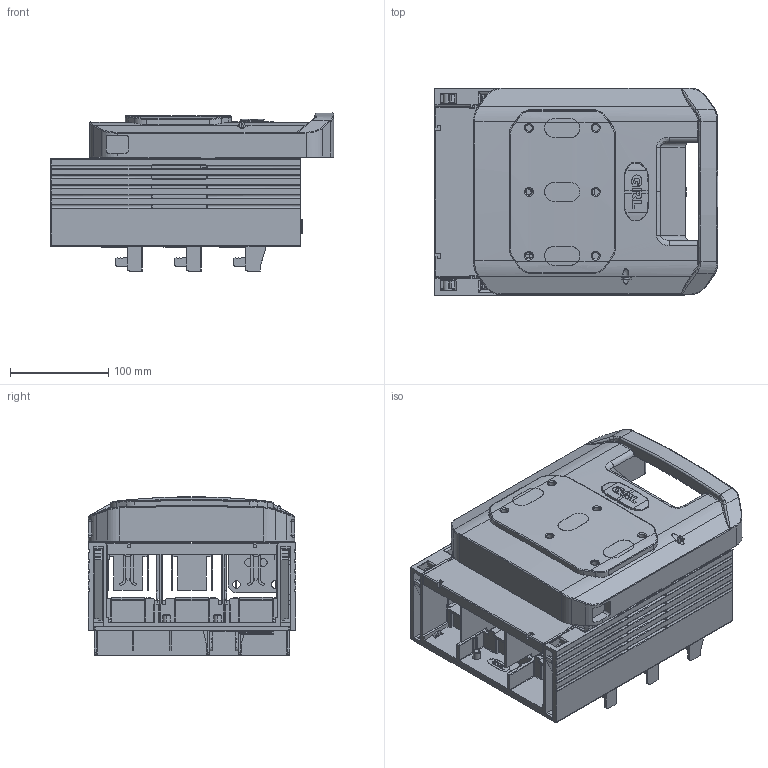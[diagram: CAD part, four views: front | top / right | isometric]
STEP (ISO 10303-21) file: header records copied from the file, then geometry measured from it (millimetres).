
FILE_DESCRIPTION(/* description */ (''),/* implementation_level */ '2;1');
FILE_NAME(/* name */ 'DNH1-400 31 新外观 总装 下端至系统-带铅封锁-外发',/* time_stamp */ '2025-01-09T09:50:13+08:00',/* author */ (''),/* organization */ (''),/* preprocessor_version */ 'ST-DEVELOPER v19.2',/* originating_system */ 'Rhino 8.2',/* authorisation */ '');
FILE_SCHEMA (('CONFIG_CONTROL_DESIGN'));
Products named in the file (1): Document
Bounding box: 288.1 x 211 x 160.83 mm (x, y, z)
Surface area: 630692.6 mm2 (no closed solid volume)
Topology: 0 solids, 66 shells, 1805 faces, 8866 edges, 6894 vertices
Faces by surface type: plane 900, cylinder 618, bspline 287
Entity records: 114255 total; most frequent: CARTESIAN_POINT 60000, ORIENTED_EDGE 12603, EDGE_CURVE 8858, B_SPLINE_CURVE_WITH_KNOTS 7005, VERTEX_POINT 6894, DIRECTION 4830, AXIS2_PLACEMENT_3D 3174, EDGE_LOOP 1996
